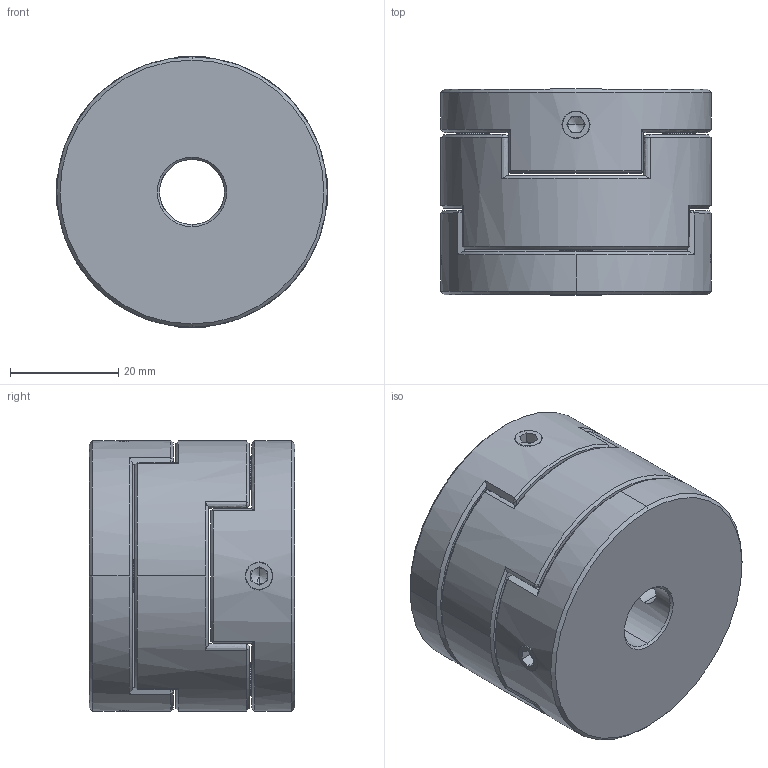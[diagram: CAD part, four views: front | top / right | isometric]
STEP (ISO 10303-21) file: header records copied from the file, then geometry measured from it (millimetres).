
FILE_DESCRIPTION (( 'STEP AP203' ), '1' );
FILE_NAME ('LZ-D-D50L38-12-14.STEP', '2021-10-30T05:41:42', ( '' ), ( '' ), 'SwSTEP 2.0', 'SolidWorks 2018', '' );
FILE_SCHEMA (( 'CONFIG_CONTROL_DESIGN' ));
Length unit declared in the file: millimetre
Products named in the file (1): LZ-D-D50L38-12-14
Bounding box: 50 x 38 x 50 mm (x, y, z)
Volume: 64739.8 mm3; surface area: 18594.6 mm2
Topology: 1 solids, 1 shells, 222 faces, 546 edges, 326 vertices
Faces by surface type: plane 88, bspline 54, cone 54, cylinder 26
Entity records: 7542 total; most frequent: CARTESIAN_POINT 2780, ORIENTED_EDGE 1076, DIRECTION 798, EDGE_CURVE 538, VERTEX_POINT 326, AXIS2_PLACEMENT_3D 289, EDGE_LOOP 248, FACE_OUTER_BOUND 222
